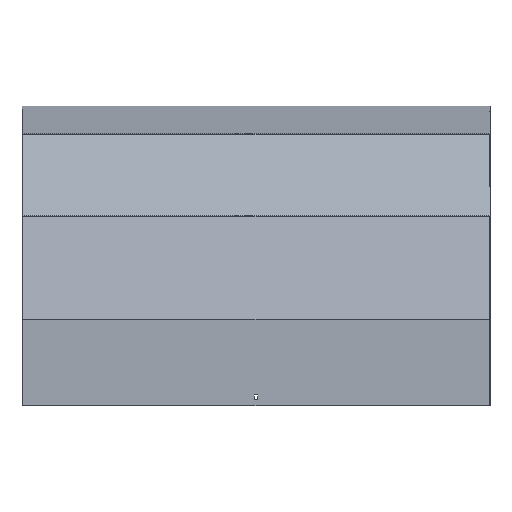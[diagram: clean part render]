
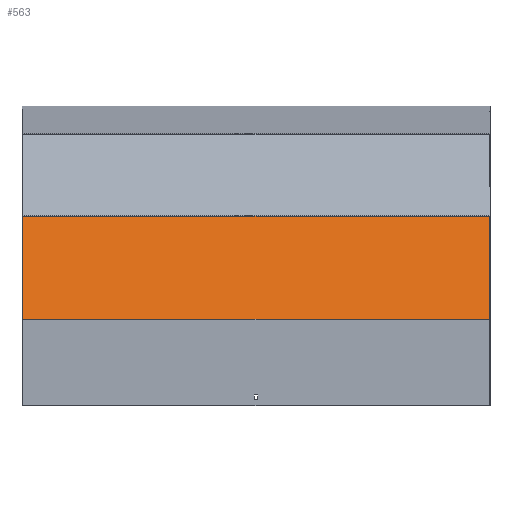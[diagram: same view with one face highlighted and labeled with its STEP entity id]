
A CAD part, top view. The second image highlights one B-rep face of the part: STEP entity #563.
In plain terms, the highlighted planar face has unit normal (0, 0.259, 0.966).
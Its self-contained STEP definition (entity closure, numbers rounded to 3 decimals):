
#1 = DIRECTION ( 'NONE',  ( 0., 0.966, -0.259 ) ) ;
#4 = PLANE ( 'NONE',  #284 ) ;
#64 = CARTESIAN_POINT ( 'NONE',  ( -451.5, -192.473, 525.472 ) ) ;
#227 = LINE ( 'NONE', #844, #333 ) ;
#249 = CARTESIAN_POINT ( 'NONE',  ( 451.5, -192.473, 525.472 ) ) ;
#284 = AXIS2_PLACEMENT_3D ( 'NONE', #621, #611, #1 ) ;
#317 = VECTOR ( 'NONE', #991, 1000. ) ;
#320 = LINE ( 'NONE', #564, #317 ) ;
#333 = VECTOR ( 'NONE', #942, 1000. ) ;
#349 = DIRECTION ( 'NONE',  ( 0., -0.966, 0.259 ) ) ;
#370 = ORIENTED_EDGE ( 'NONE', *, *, #788, .T. ) ;
#391 = CARTESIAN_POINT ( 'NONE',  ( -451.5, -392.412, 579.045 ) ) ;
#419 = VERTEX_POINT ( 'NONE', #249 ) ;
#460 = EDGE_LOOP ( 'NONE', ( #1001, #770, #711, #370 ) ) ;
#481 = CARTESIAN_POINT ( 'NONE',  ( 451.5, -392.412, 579.045 ) ) ;
#563 = ADVANCED_FACE ( 'NONE', ( #779 ), #4, .F. ) ;
#564 = CARTESIAN_POINT ( 'NONE',  ( -451.5, -197.649, 526.859 ) ) ;
#584 = VECTOR ( 'NONE', #349, 1000. ) ;
#611 = DIRECTION ( 'NONE',  ( 0., -0.259, -0.966 ) ) ;
#612 = CARTESIAN_POINT ( 'NONE',  ( 451.5, -192.473, 525.472 ) ) ;
#621 = CARTESIAN_POINT ( 'NONE',  ( 451.5, -197.649, 526.859 ) ) ;
#675 = EDGE_CURVE ( 'NONE', #717, #985, #320, .T. ) ;
#677 = EDGE_CURVE ( 'NONE', #1031, #985, #227, .T. ) ;
#698 = DIRECTION ( 'NONE',  ( -1., 0., 0. ) ) ;
#711 = ORIENTED_EDGE ( 'NONE', *, *, #751, .F. ) ;
#717 = VERTEX_POINT ( 'NONE', #64 ) ;
#751 = EDGE_CURVE ( 'NONE', #419, #1031, #774, .T. ) ;
#770 = ORIENTED_EDGE ( 'NONE', *, *, #677, .F. ) ;
#774 = LINE ( 'NONE', #1115, #584 ) ;
#779 = FACE_OUTER_BOUND ( 'NONE', #460, .T. ) ;
#788 = EDGE_CURVE ( 'NONE', #419, #717, #1061, .T. ) ;
#844 = CARTESIAN_POINT ( 'NONE',  ( 451.5, -392.412, 579.045 ) ) ;
#942 = DIRECTION ( 'NONE',  ( -1., 0., 0. ) ) ;
#985 = VERTEX_POINT ( 'NONE', #391 ) ;
#991 = DIRECTION ( 'NONE',  ( 0., -0.966, 0.259 ) ) ;
#1001 = ORIENTED_EDGE ( 'NONE', *, *, #675, .T. ) ;
#1013 = VECTOR ( 'NONE', #698, 1000. ) ;
#1031 = VERTEX_POINT ( 'NONE', #481 ) ;
#1061 = LINE ( 'NONE', #612, #1013 ) ;
#1115 = CARTESIAN_POINT ( 'NONE',  ( 451.5, -197.649, 526.859 ) ) ;
